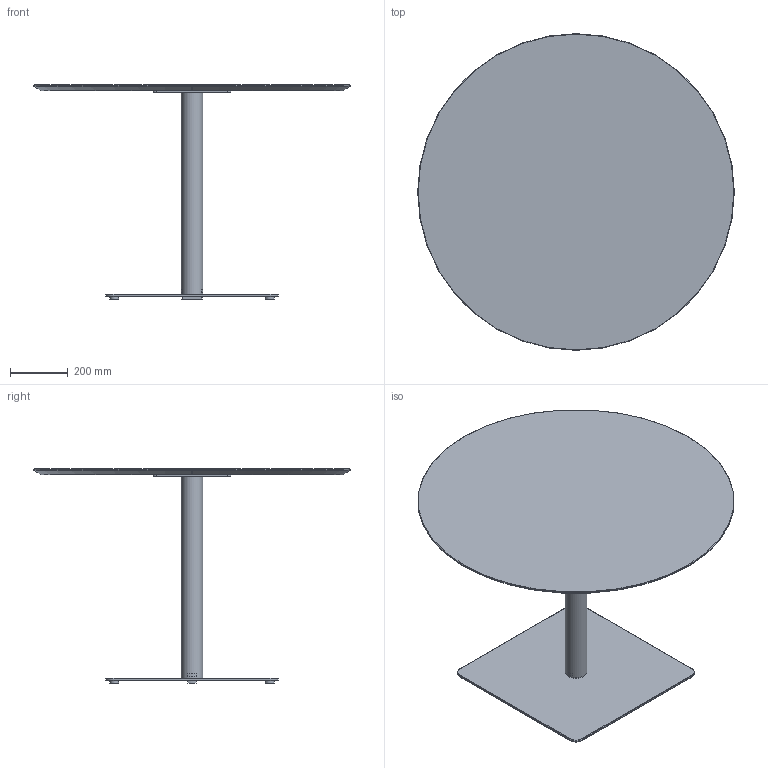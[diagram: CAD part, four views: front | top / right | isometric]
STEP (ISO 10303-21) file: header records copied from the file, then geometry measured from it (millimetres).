
FILE_DESCRIPTION( ('This file contains a STEP AP42 implementation' ,'as created by ZW3D STEP Interface translator.') ,'2;1' );
FILE_NAME( 'Henri - B_Carré - F1 - M5 - 1100 x 1100 x 750.stp' ,'24 912.1629 4', (''), ('ZWCAD Software Co.'), 'Version 1.0', 'ZW3D to STEP translator', '' );
FILE_SCHEMA(('AUTOMOTIVE_DESIGN { 1 0 10303 214 1 1 1 1 }'));
Length unit declared in the file: millimetre
Products named in the file (14): 0; PIED BISTROT PARAMETRIQUE_; COLONNE ACIER Ø76 V.02_; TUB-D076-02_; PLA-R76B-01_; CROIX ACIER 370 V.02_; CRX-X370-02_; SOCLE ACIER L 600x600 V.02_; SCL-R600-02_; PLA-R30A-01_; PLA-R30A-01; WUERTH 0276063020 Euro-screw 6.3x2 Verzinkt_; PLATEAU BISTROT PARAMETRIQUE_; insert_m6_13_
Assembly tree (22 placements, depth 3):
  0
  PIED BISTROT PARAMETRIQUE_
    COLONNE ACIER Ø76 V.02_
      TUB-D076-02_
      PLA-R76B-01_  x2
    CROIX ACIER 370 V.02_
      CRX-X370-02_
    SOCLE ACIER L 600x600 V.02_
      SCL-R600-02_
      PLA-R30A-01_
      PLA-R30A-01  x3
    WUERTH 0276063020 Euro-screw 6.3x2 Verzinkt_
    PLATEAU BISTROT PARAMETRIQUE_
      insert_m6_13_  x8
Bounding box: 1100 x 1100 x 744 mm (x, y, z)
Volume: 22160312.2 mm3; surface area: 3185817.4 mm2
Topology: 19 solids, 19 shells, 537 faces, 1310 edges, 822 vertices
Faces by surface type: plane 262, bspline 125, cylinder 98, cone 51, torus 1
Full cylindrical faces by diameter (mm): 4.88 x1, 6 x8, 6.3 x1, 8 x45, 12 x2, 14 x2, 30 x4, 72 x1, 76 x1
Entity records: 12322 total; most frequent: CARTESIAN_POINT 3424, ORIENTED_EDGE 1624, DIRECTION 1511, EDGE_CURVE 812, VERTEX_POINT 518, VECTOR 513, LINE 513, AXIS2_PLACEMENT_3D 499
